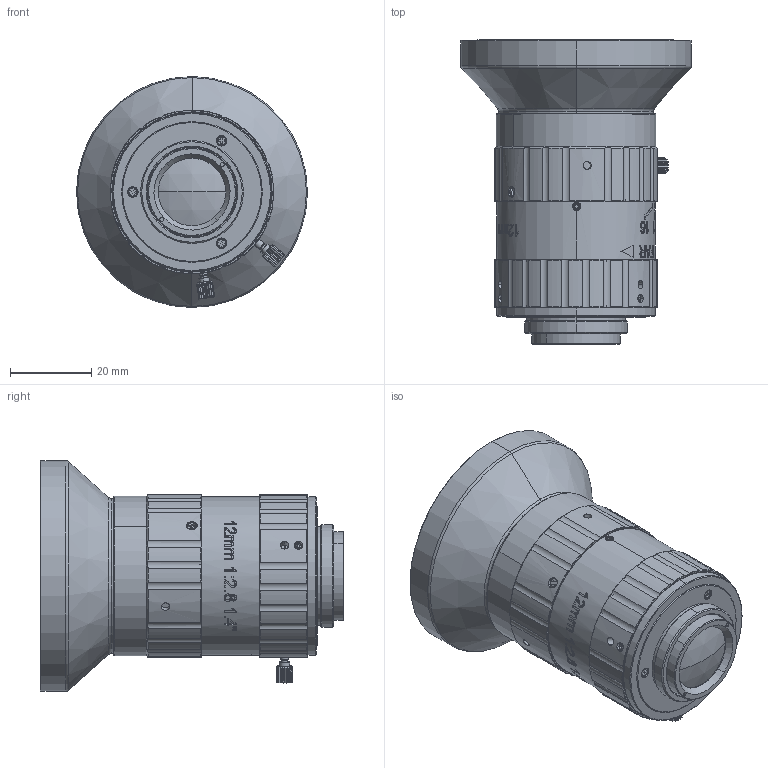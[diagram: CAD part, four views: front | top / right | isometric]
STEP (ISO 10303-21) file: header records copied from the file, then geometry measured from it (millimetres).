
FILE_DESCRIPTION((''),'2;1');
FILE_NAME('FA1245A-200-ASM_ASM','2022-07-25T16:10:14',('Administrator'),(''),'CREO PARAMETRIC BY PTC INC, 2018020','CREO PARAMETRIC BY PTC INC, 2018020','');
FILE_SCHEMA(('CONFIG_CONTROL_DESIGN'));
Length unit declared in the file: millimetre
Products named in the file (27): 508; M17552501; M14252001; M14302001; FA2515A-531; 301; 501; FA7515A-522; 511; 201_ASM; 503; 502; _37890; _000; _786410; MB120-00-30_ASM; FA7505A-522; 316; 519; FA0615A-521-V0; 202_ASM; 507; 505; 504; M14402001; FA1245A-200-ASM_1_ASM; FA1245A-200-ASM_ASM
Assembly tree (55 placements, depth 5):
  FA1245A-200-ASM_ASM
    FA1245A-200-ASM_1_ASM
      508
      M17552501  x3
      M14252001  x2
      M14302001  x3
      FA2515A-531  x2
      201_ASM
        M17552501  x5
        301
        501
        FA7515A-522  x5
        511
      503
      202_ASM
        M17552501  x5
        502
        MB120-00-30_ASM  x5
          _37890
          _000
          _786410
        FA7505A-522  x5
        316
        519
        FA0615A-521-V0
      507
      505
      504
      M14402001  x2
Bounding box: 57 x 75 x 57 mm (x, y, z)
Volume: 54908 mm3; surface area: 57064.8 mm2
Topology: 59 solids, 59 shells, 2478 faces, 6078 edges, 3889 vertices
Faces by surface type: plane 831, cylinder 687, cone 466, bspline 400, torus 86, sphere 8
Entity records: 82014 total; most frequent: CARTESIAN_POINT 40814, ORIENTED_EDGE 8868, DIRECTION 7774, EDGE_CURVE 4434, AXIS2_PLACEMENT_3D 2948, VERTEX_POINT 2856, EDGE_LOOP 1964, VECTOR 1878
